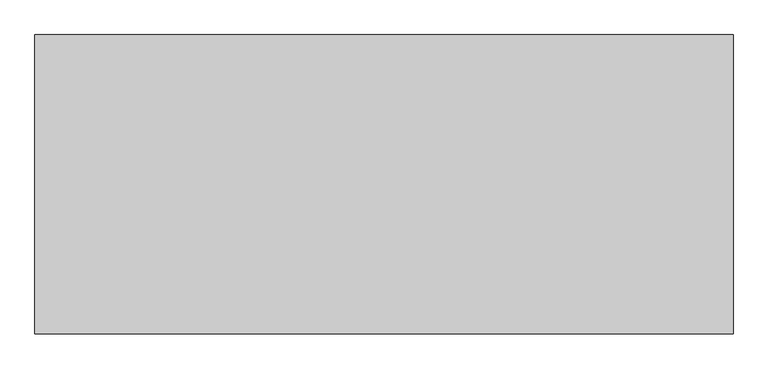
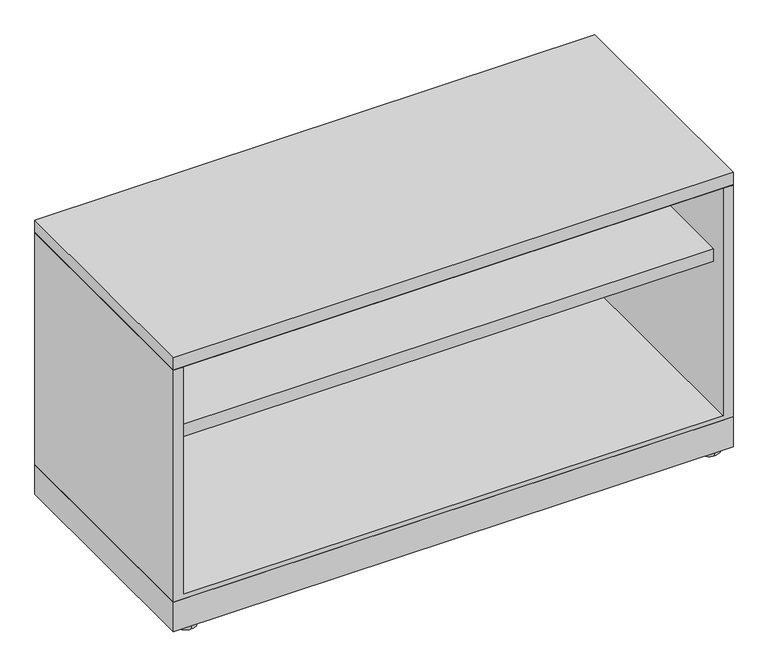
"""IFC4 building model written with IfcOpenShell, lengths in millimetres: furniture geometry, Steelcase - Universal Storage - Lateral File - 1.5 High - Flush Steel : Open/Open - 18D x 42W."""

from ifc_helpers import new_model, si_unit, point, frame, frame_2d, origin, origin_with_axes, place, context, project, spatial, polyline, circle_curve, trimmed, segment, composite_curve, outline, extrude, faceted_brep, source, transform, mapped, element, save


def furniture_6f4c0f74(model_context):
    return source(origin(), model_context, "Body", "SolidModel", [
        extrude(outline(polyline([(1066.8, 457.2), (1066.8, 0.0), (0.0, 0.0), (0.0, 457.2), (1066.8, 457.2)])), frame((0.0, 0.0, 6.3500002), z_axis=(0.0, 0.0, 1.0), x_axis=(1.0, 0.0, 0.0)), (0.0, 0.0, 1.0), 59.6899998),
        extrude(outline(composite_curve([segment(trimmed(circle_curve(frame_2d((1032.1290058, 434.8633666)), 20.32), [point((1032.1290058, 414.5433666))], [point((1032.1290058, 455.1833666))], False, "CARTESIAN"), True, "CONTINUOUS"), segment(trimmed(circle_curve(frame_2d((1032.1290058, 434.8633666)), 20.32), [point((1032.1290058, 455.1833666))], [point((1032.1290058, 414.5433666))], False, "CARTESIAN"), True, "CONTINUOUS")], self_intersect=False)), origin_with_axes(), (0.0, 0.0, 1.0), 6.3500002),
        extrude(outline(composite_curve([segment(trimmed(circle_curve(frame_2d((1032.1290058, 20.7491455)), 20.32), [point((1032.1290058, 0.4291455))], [point((1032.1290058, 41.0691455))], False, "CARTESIAN"), True, "CONTINUOUS"), segment(trimmed(circle_curve(frame_2d((1032.1290058, 20.7491455)), 20.32), [point((1032.1290058, 41.0691455))], [point((1032.1290058, 0.4291455))], False, "CARTESIAN"), True, "CONTINUOUS")], self_intersect=False)), origin_with_axes(), (0.0, 0.0, 1.0), 6.3500002),
        extrude(outline(composite_curve([segment(trimmed(circle_curve(frame_2d((34.29, 434.8633666)), 20.32), [point((34.29, 455.1833666))], [point((34.29, 414.5433666))], False, "CARTESIAN"), True, "CONTINUOUS"), segment(trimmed(circle_curve(frame_2d((34.29, 434.8633666)), 20.32), [point((34.29, 414.5433666))], [point((34.29, 455.1833666))], False, "CARTESIAN"), True, "CONTINUOUS")], self_intersect=False)), origin_with_axes(), (0.0, 0.0, 1.0), 6.3500002),
        extrude(outline(composite_curve([segment(trimmed(circle_curve(frame_2d((34.29, 20.7491455)), 20.32), [point((34.29, 41.0691455))], [point((34.29, 0.4291455))], False, "CARTESIAN"), True, "CONTINUOUS"), segment(trimmed(circle_curve(frame_2d((34.29, 20.7491455)), 20.32), [point((34.29, 0.4291455))], [point((34.29, 41.0691455))], False, "CARTESIAN"), True, "CONTINUOUS")], self_intersect=False)), origin_with_axes(), (0.0, 0.0, 1.0), 6.3500002),
        extrude(outline(polyline([(437.7944128, 396.7988176), (437.7944128, 410.7687861), (440.969412, 410.7687861), (440.969412, 371.5257963), (26.822418, 371.5257963), (26.822418, 396.7988176), (437.7944128, 396.7988176)])), frame((22.0472, 0.0, 0.0), z_axis=(1.0, 0.0, 0.0), x_axis=(0.0, 1.0, 0.0)), (0.0, 0.0, 1.0), 1022.7056),
        extrude(outline(polyline([(1.45e-05, 534.0350121), (457.2, 534.0350121), (456.4379879, 533.273), (0.7620266, 533.273), (1.45e-05, 534.0350121)])), frame((0.0, 0.0, 0.0), z_axis=(1.0, 0.0, 0.0), x_axis=(0.0, 1.0, 0.0)), (0.0, 0.0, 1.0), 1066.8),
        extrude(outline(polyline([(1066.8, 457.2), (1066.8, 0.0), (0.0, 0.0), (0.0, 457.2), (1066.8, 457.2)])), frame((0.0, 0.0, 534.0350121), z_axis=(0.0, 0.0, 1.0), x_axis=(1.0, 0.0, 0.0)), (0.0, 0.0, 1.0), 24.6379729),
        faceted_brep([(1066.8, 0.0, 66.04), (1066.8, 457.2, 66.04), (1066.8, 457.2, 533.273), (1066.8, 0.0, 533.273), (0.0, 0.0, 533.273), (0.0, 457.2, 533.273), (0.0, 457.2, 66.04), (0.0, 0.0, 66.04), (1047.75, 0.0, 533.273), (1047.75, 0.0, 75.1586), (19.05, 0.0, 75.1586), (19.05, 0.0, 533.273), (19.05, 454.0249999, 533.273), (1047.75, 454.0249999, 533.273), (19.05, 454.0249999, 75.1586), (1047.75, 454.0249999, 75.1586)], [[[0, 1, 2, 3]], [[4, 5, 6, 7]], [[0, 3, 8, 9, 10, 11, 4, 7]], [[2, 1, 6, 5]], [[3, 2, 5, 4, 11, 12, 13, 8]], [[12, 14, 15, 13]], [[14, 12, 11, 10]], [[13, 15, 9, 8]], [[1, 0, 7, 6]], [[10, 9, 15, 14]]]),
    ])


if __name__ == "__main__":
    model = new_model("IFC4")
    model_context = context("Model", 3, world=origin())
    ifc_project = project(units=[si_unit("LENGTHUNIT", "METRE", prefix="MILLI")], contexts=[model_context])
    site = spatial("IfcSite", under=ifc_project)
    building = spatial("IfcBuilding", under=site)
    placement = place(None, origin())
    furniture_shape = furniture_6f4c0f74(model_context)
    element("IfcFurniture", 1, ObjectType="Steelcase - Universal Storage - Lateral File - 1.5 High - Flush Steel : Open/Open - 18D x 42W", at=placement, inside=building, context=model_context, shape_type="MappedRepresentation", body=[
        mapped(furniture_shape, transform((0.0, 0.0, 0.0), x_axis=(1.0, 0.0, 0.0), y_axis=(0.0, 1.0, 0.0), z_axis=(0.0, 0.0, 1.0))),
    ])
    save(model, "model.ifc")
